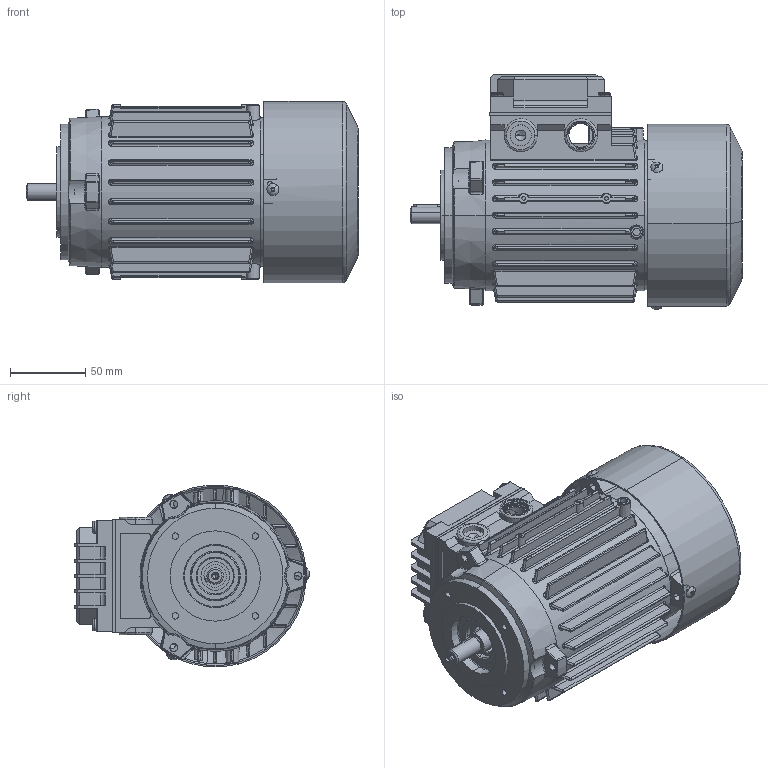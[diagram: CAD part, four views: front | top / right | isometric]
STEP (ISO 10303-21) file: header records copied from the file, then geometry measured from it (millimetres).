
FILE_DESCRIPTION (( 'STEP AP214' ), '1' );
FILE_NAME ('M24BC0010.STEP', '2018-10-25T12:53:52', ( '' ), ( '' ), 'SwSTEP 2.0', 'SolidWorks 2018', '' );
FILE_SCHEMA (( 'AUTOMOTIVE_DESIGN' ));
Length unit declared in the file: millimetre
Products named in the file (12): M24BC0010; Coperchio per Scatola Singola 63-71-80 con viti; Guarnizione Scatola Singola 63-71-80; Vite per coperchio morsettiera; Coperchio per Scatola Singola 63-71-80 - DBAN0095; Chiavetta 63; Vite testa rotonda M3; Cuffia SM 63 - DAA40098; Scudo Lato Comando B3 BM 63 - DAAD0194; Scudo a flangia B14 BM 63 - DAAC0194; Albero SM 63 - DAD10095; Carcassa 63 B5
Assembly tree (16 placements, depth 3):
  M24BC0010
    Carcassa 63 B5
    Albero SM 63 - DAD10095
    Scudo a flangia B14 BM 63 - DAAC0194
    Scudo Lato Comando B3 BM 63 - DAAD0194
    Cuffia SM 63 - DAA40098
    Vite testa rotonda M3  x3
    Chiavetta 63
    Coperchio per Scatola Singola 63-71-80 con viti
      Coperchio per Scatola Singola 63-71-80 - DBAN0095
      Vite per coperchio morsettiera  x4
      Guarnizione Scatola Singola 63-71-80
Bounding box: 220.5 x 156.12 x 120.63 mm (x, y, z)
Volume: 467491.8 mm3; surface area: 301483.9 mm2
Topology: 21 solids, 21 shells, 3028 faces, 8142 edges, 5115 vertices
Faces by surface type: plane 1086, cylinder 935, bspline 343, torus 330, cone 230, sphere 104
Entity records: 105868 total; most frequent: CARTESIAN_POINT 39705, ORIENTED_EDGE 14674, DIRECTION 12381, EDGE_CURVE 7337, AXIS2_PLACEMENT_3D 4687, VERTEX_POINT 4679, VECTOR 3007, LINE 3007
